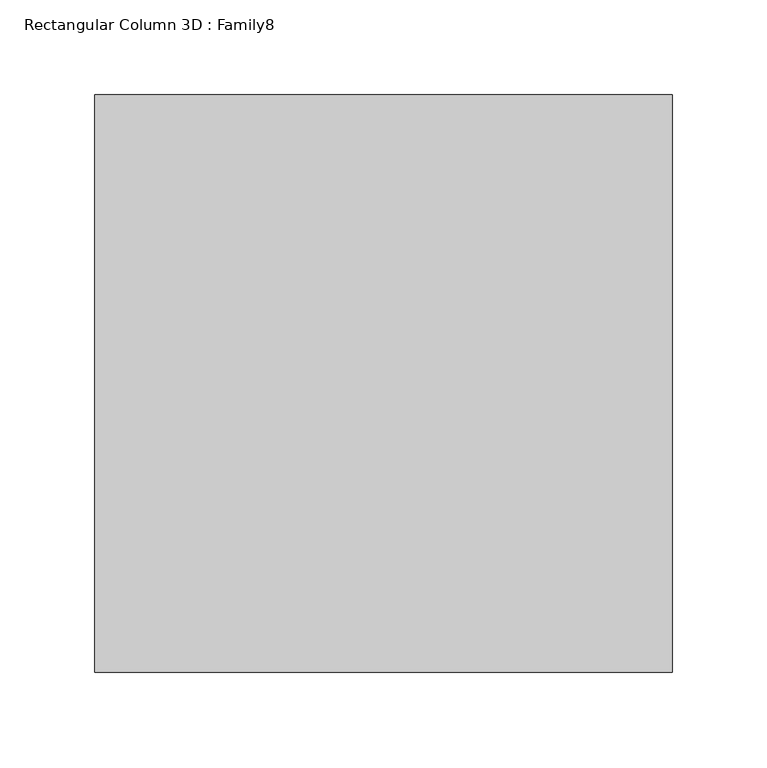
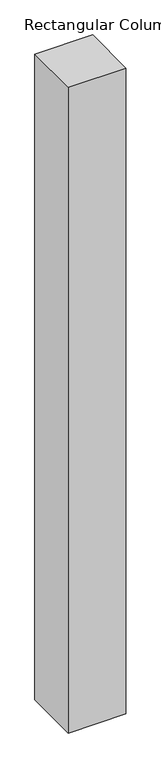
"""IFC4 building model written with IfcOpenShell, lengths in millimetres: column geometry, Rectangular Column 3D : Family8."""

from ifc_helpers import new_model, si_unit, origin, origin_with_axes, place, context, project, spatial, polyline, outline, extrude, source, transform, mapped, element, save


def rectangular_column_3d_family8_6da2cb89(model_context):
    return source(origin(), model_context, "Body", "SweptSolid", [
        extrude(outline(polyline([(304.8, 304.8), (304.8, 0.0), (0.0, 0.0), (0.0, 304.8), (304.8, 304.8)])), origin_with_axes(), (0.0, 0.0, 1.0), 3606.8),
    ])


if __name__ == "__main__":
    model = new_model("IFC4")
    model_context = context("Model", 3, world=origin())
    ifc_project = project(units=[si_unit("LENGTHUNIT", "METRE", prefix="MILLI")], contexts=[model_context])
    site = spatial("IfcSite", under=ifc_project)
    building = spatial("IfcBuilding", under=site)
    placement = place(None, origin())
    rectangular_column_3d_family8_shape = rectangular_column_3d_family8_6da2cb89(model_context)
    element("IfcColumn", 1, ObjectType="Rectangular Column 3D : Family8", at=placement, inside=building, context=model_context, shape_type="MappedRepresentation", body=[
        mapped(rectangular_column_3d_family8_shape, transform((0.0, 0.0, 0.0), x_axis=(1.0, 0.0, 0.0), y_axis=(0.0, 1.0, 0.0), z_axis=(0.0, 0.0, 1.0))),
    ])
    save(model, "model.ifc")
